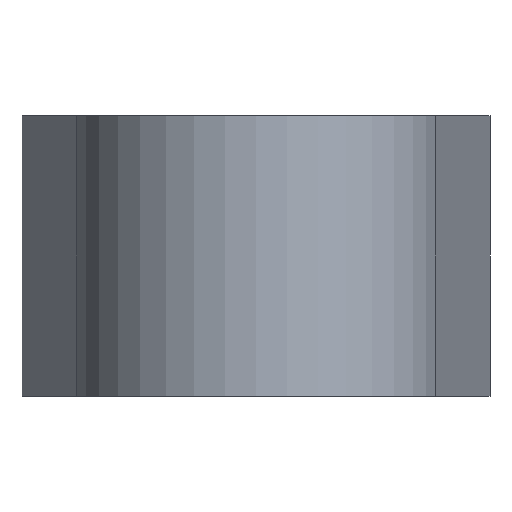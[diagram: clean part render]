
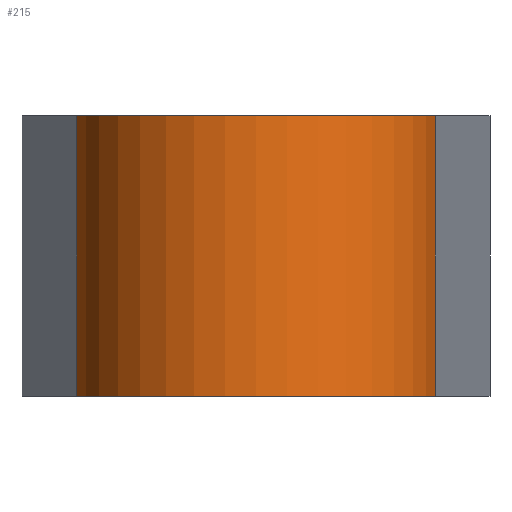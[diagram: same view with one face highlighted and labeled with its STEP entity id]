
A CAD part, left-side view. The second image highlights one B-rep face of the part: STEP entity #215.
In plain terms, the highlighted cylindrical face has radius 19.5 mm (diameter 39 mm), a partial arc.
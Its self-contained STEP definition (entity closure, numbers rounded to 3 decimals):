
#127=CYLINDRICAL_SURFACE('',#827,19.5);
#156=CIRCLE('',#825,19.5);
#157=CIRCLE('',#826,19.5);
#215=ADVANCED_FACE('',(#272),#127,.T.);
#272=FACE_OUTER_BOUND('',#306,.T.);
#306=EDGE_LOOP('',(#387,#388,#389,#390));
#387=ORIENTED_EDGE('',*,*,#644,.F.);
#388=ORIENTED_EDGE('',*,*,#647,.T.);
#389=ORIENTED_EDGE('',*,*,#627,.T.);
#390=ORIENTED_EDGE('',*,*,#648,.F.);
#561=VERTEX_POINT('',#1162);
#562=VERTEX_POINT('',#1164);
#573=VERTEX_POINT('',#1198);
#574=VERTEX_POINT('',#1199);
#627=EDGE_CURVE('',#562,#561,#727,.T.);
#644=EDGE_CURVE('',#573,#574,#740,.T.);
#647=EDGE_CURVE('',#573,#562,#156,.T.);
#648=EDGE_CURVE('',#574,#561,#157,.T.);
#727=LINE('',#1163,#771);
#740=LINE('',#1197,#784);
#771=VECTOR('',#917,1.);
#784=VECTOR('',#950,1.);
#825=AXIS2_PLACEMENT_3D('',#1203,#955,#956);
#826=AXIS2_PLACEMENT_3D('',#1204,#957,#958);
#827=AXIS2_PLACEMENT_3D('',#1205,#959,#960);
#917=DIRECTION('',(0.,0.,1.));
#950=DIRECTION('',(0.,0.,1.));
#955=DIRECTION('',(0.,0.,1.));
#956=DIRECTION('',(1.,0.,0.));
#957=DIRECTION('',(0.,0.,1.));
#958=DIRECTION('',(1.,0.,0.));
#959=DIRECTION('',(0.,0.,1.));
#960=DIRECTION('',(-1.,0.,0.));
#1162=CARTESIAN_POINT('',(-3.771,-19.132,30.));
#1163=CARTESIAN_POINT('',(-3.771,-19.132,0.));
#1164=CARTESIAN_POINT('',(-3.771,-19.132,0.));
#1197=CARTESIAN_POINT('',(-3.771,19.132,0.));
#1198=CARTESIAN_POINT('',(-3.771,19.132,0.));
#1199=CARTESIAN_POINT('',(-3.771,19.132,30.));
#1203=CARTESIAN_POINT('',(0.,0.,0.));
#1204=CARTESIAN_POINT('',(0.,0.,30.));
#1205=CARTESIAN_POINT('',(0.,0.,0.));
